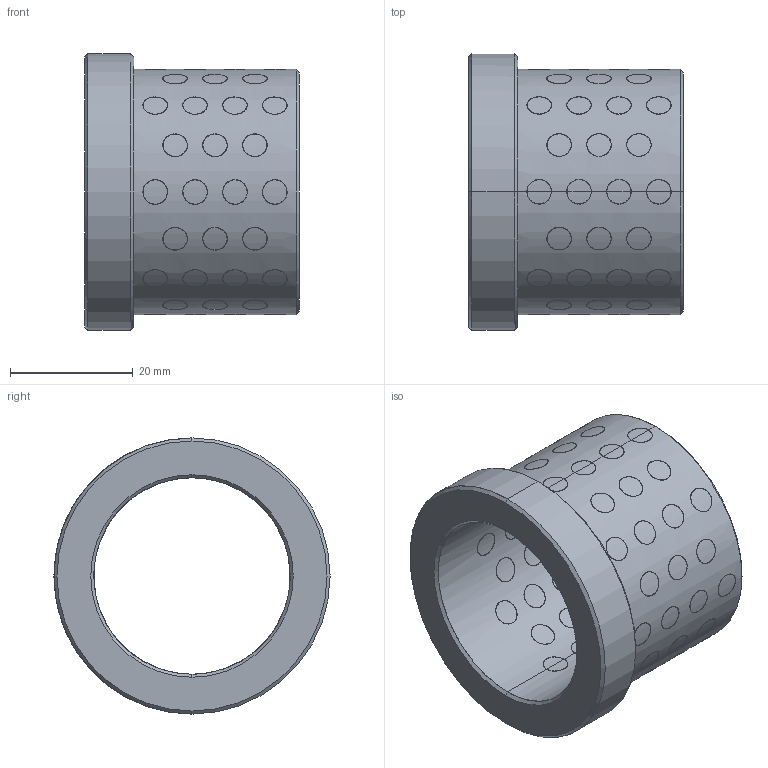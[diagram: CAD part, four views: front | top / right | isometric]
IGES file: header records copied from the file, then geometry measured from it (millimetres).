
Start section: START RECORD GO HERE.
Global section: file name: G4013235.igs; native system: DASSAULT SYSTEMES CATIA V5 R20 - www.3ds.com; preprocessor: CATIA Version 5 Release 20 ; author: r.borello; organization: CFTORINO; date: 20190624.143139; units: millimetre
Bounding box: 35 x 45 x 45 mm (x, y, z)
Surface area: 15013 mm2 (no closed solid volume)
Topology: 0 solids, 0 shells, 371 faces, 1612 edges, 1612 vertices
Faces by surface type: revolution 368, plane 3
